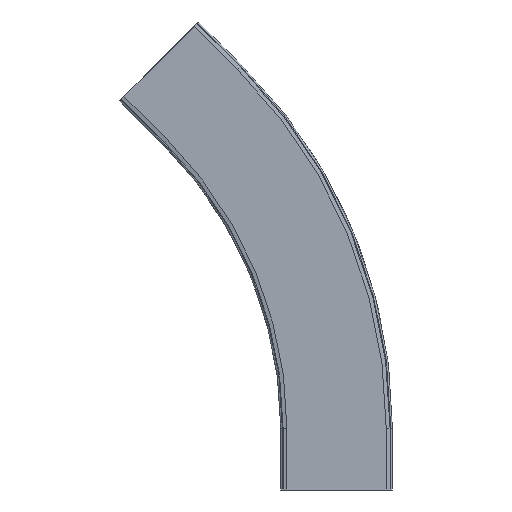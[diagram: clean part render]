
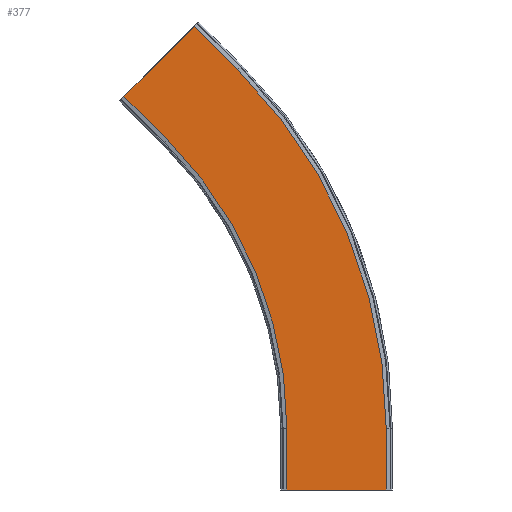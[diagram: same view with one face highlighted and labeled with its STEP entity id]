
A CAD part, front view. The second image highlights one B-rep face of the part: STEP entity #377.
In plain terms, the highlighted planar face has unit normal (0, -1, 0).
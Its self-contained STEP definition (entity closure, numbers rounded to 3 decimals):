
#73=CARTESIAN_POINT('',(-239.266,-74.,514.871));
#74=VERTEX_POINT('',#73);
#83=CARTESIAN_POINT('',(-147.343,-74.,606.795));
#84=VERTEX_POINT('',#83);
#85=CARTESIAN_POINT('',(-147.343,-74.,606.795));
#86=DIRECTION('',(-0.707,0.,-0.707));
#87=VECTOR('',#86,130.);
#88=LINE('',#85,#87);
#89=EDGE_CURVE('',#84,#74,#88,.T.);
#219=CARTESIAN_POINT('',(-90.774,-74.,550.226));
#220=VERTEX_POINT('',#219);
#221=CARTESIAN_POINT('',(-90.774,-74.,550.226));
#222=DIRECTION('',(-0.707,0.,0.707));
#223=VECTOR('',#222,80.);
#224=LINE('',#221,#223);
#225=EDGE_CURVE('',#220,#84,#224,.T.);
#293=CARTESIAN_POINT('',(-182.698,-74.,458.302));
#294=VERTEX_POINT('',#293);
#301=CARTESIAN_POINT('',(-182.698,-74.,458.302));
#302=DIRECTION('',(-0.707,0.,0.707));
#303=VECTOR('',#302,80.);
#304=LINE('',#301,#303);
#305=EDGE_CURVE('',#294,#74,#304,.T.);
#316=CARTESIAN_POINT('',(104.,-74.,80.0));
#317=VERTEX_POINT('',#316);
#318=CARTESIAN_POINT('',(-561.,-74.,80.0));
#319=DIRECTION('',(0.0,-1.0,0.0));
#320=DIRECTION('',(1.0,0.0,0.0));
#321=AXIS2_PLACEMENT_3D('',#318,#319,#320);
#322=CIRCLE('',#321,665.);
#323=EDGE_CURVE('',#317,#220,#322,.T.);
#335=CARTESIAN_POINT('',(299.011,-74.0,160.441));
#336=DIRECTION('',(0.0,-1.0,0.0));
#337=DIRECTION('',(0.707,0.0,-0.707));
#338=AXIS2_PLACEMENT_3D('',#335,#336,#337);
#339=PLANE('',#338);
#340=ORIENTED_EDGE('',*,*,#89,.T.);
#341=ORIENTED_EDGE('',*,*,#305,.F.);
#342=CARTESIAN_POINT('',(-26.,-74.,80.0));
#343=VERTEX_POINT('',#342);
#344=CARTESIAN_POINT('',(-561.,-74.,80.0));
#345=DIRECTION('',(0.0,-1.0,0.0));
#346=DIRECTION('',(1.0,0.0,0.0));
#347=AXIS2_PLACEMENT_3D('',#344,#345,#346);
#348=CIRCLE('',#347,535.);
#349=EDGE_CURVE('',#343,#294,#348,.T.);
#350=ORIENTED_EDGE('',*,*,#349,.F.);
#351=CARTESIAN_POINT('',(-26.,-74.,0.0));
#352=VERTEX_POINT('',#351);
#353=CARTESIAN_POINT('',(-26.,-74.,0.0));
#354=DIRECTION('',(0.0,0.0,1.0));
#355=VECTOR('',#354,80.0);
#356=LINE('',#353,#355);
#357=EDGE_CURVE('',#352,#343,#356,.T.);
#358=ORIENTED_EDGE('',*,*,#357,.F.);
#359=CARTESIAN_POINT('',(104.,-74.,0.0));
#360=VERTEX_POINT('',#359);
#361=CARTESIAN_POINT('',(-26.,-74.,0.0));
#362=DIRECTION('',(1.0,0.0,0.0));
#363=VECTOR('',#362,130.);
#364=LINE('',#361,#363);
#365=EDGE_CURVE('',#352,#360,#364,.T.);
#366=ORIENTED_EDGE('',*,*,#365,.T.);
#367=CARTESIAN_POINT('',(104.,-74.,0.0));
#368=DIRECTION('',(0.0,0.0,1.0));
#369=VECTOR('',#368,80.0);
#370=LINE('',#367,#369);
#371=EDGE_CURVE('',#360,#317,#370,.T.);
#372=ORIENTED_EDGE('',*,*,#371,.T.);
#373=ORIENTED_EDGE('',*,*,#323,.T.);
#374=ORIENTED_EDGE('',*,*,#225,.T.);
#375=EDGE_LOOP('',(#340,#341,#350,#358,#366,#372,#373,#374));
#376=FACE_OUTER_BOUND('',#375,.T.);
#377=ADVANCED_FACE('',(#376),#339,.T.);
